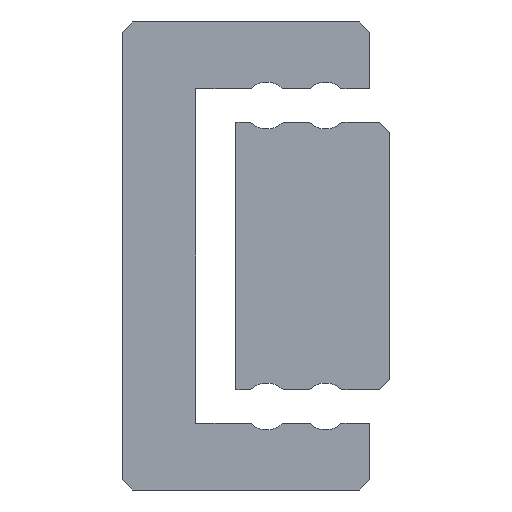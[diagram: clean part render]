
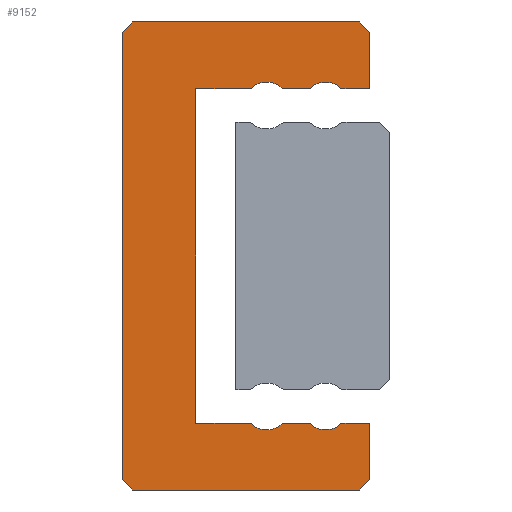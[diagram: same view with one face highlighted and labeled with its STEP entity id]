
A CAD part, left-side view. The second image highlights one B-rep face of the part: STEP entity #9152.
In plain terms, the highlighted planar face has unit normal (-1, 0, 0).
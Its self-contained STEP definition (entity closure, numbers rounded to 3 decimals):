
#292=CIRCLE('',#9932,0.35);
#294=CIRCLE('',#9936,0.35);
#298=CIRCLE('',#9944,0.35);
#300=CIRCLE('',#9948,0.35);
#1524=ORIENTED_EDGE('',*,*,#3844,.F.);
#1525=ORIENTED_EDGE('',*,*,#4288,.F.);
#1526=ORIENTED_EDGE('',*,*,#4285,.F.);
#1527=ORIENTED_EDGE('',*,*,#4280,.F.);
#1528=ORIENTED_EDGE('',*,*,#4277,.F.);
#1529=ORIENTED_EDGE('',*,*,#4274,.F.);
#1530=ORIENTED_EDGE('',*,*,#4271,.F.);
#1531=ORIENTED_EDGE('',*,*,#4268,.F.);
#1532=ORIENTED_EDGE('',*,*,#4265,.T.);
#1533=ORIENTED_EDGE('',*,*,#4262,.F.);
#1534=ORIENTED_EDGE('',*,*,#4259,.T.);
#1535=ORIENTED_EDGE('',*,*,#4256,.F.);
#1536=ORIENTED_EDGE('',*,*,#4253,.F.);
#1537=ORIENTED_EDGE('',*,*,#4248,.F.);
#1538=ORIENTED_EDGE('',*,*,#4245,.T.);
#1539=ORIENTED_EDGE('',*,*,#4242,.F.);
#1540=ORIENTED_EDGE('',*,*,#4239,.T.);
#1541=ORIENTED_EDGE('',*,*,#4236,.F.);
#1542=ORIENTED_EDGE('',*,*,#4233,.F.);
#1543=ORIENTED_EDGE('',*,*,#4230,.F.);
#3844=EDGE_CURVE('',#5256,#5257,#6212,.T.);
#4230=EDGE_CURVE('',#5257,#5642,#6350,.T.);
#4233=EDGE_CURVE('',#5642,#5644,#6353,.T.);
#4236=EDGE_CURVE('',#5644,#5646,#6356,.T.);
#4239=EDGE_CURVE('',#5648,#5646,#292,.T.);
#4242=EDGE_CURVE('',#5648,#5650,#6360,.T.);
#4245=EDGE_CURVE('',#5652,#5650,#294,.T.);
#4248=EDGE_CURVE('',#5652,#5654,#6364,.T.);
#4253=EDGE_CURVE('',#5654,#5658,#6367,.T.);
#4256=EDGE_CURVE('',#5658,#5660,#6370,.T.);
#4259=EDGE_CURVE('',#5662,#5660,#298,.T.);
#4262=EDGE_CURVE('',#5662,#5664,#6374,.T.);
#4265=EDGE_CURVE('',#5666,#5664,#300,.T.);
#4268=EDGE_CURVE('',#5666,#5668,#6378,.T.);
#4271=EDGE_CURVE('',#5668,#5670,#6381,.T.);
#4274=EDGE_CURVE('',#5670,#5672,#6384,.T.);
#4277=EDGE_CURVE('',#5672,#5674,#6387,.T.);
#4280=EDGE_CURVE('',#5674,#5676,#6390,.T.);
#4285=EDGE_CURVE('',#5676,#5680,#6393,.T.);
#4288=EDGE_CURVE('',#5680,#5256,#6396,.T.);
#5256=VERTEX_POINT('',#13929);
#5257=VERTEX_POINT('',#13930);
#5642=VERTEX_POINT('',#14702);
#5644=VERTEX_POINT('',#14708);
#5646=VERTEX_POINT('',#14714);
#5648=VERTEX_POINT('',#14720);
#5650=VERTEX_POINT('',#14726);
#5652=VERTEX_POINT('',#14732);
#5654=VERTEX_POINT('',#14738);
#5658=VERTEX_POINT('',#14748);
#5660=VERTEX_POINT('',#14754);
#5662=VERTEX_POINT('',#14760);
#5664=VERTEX_POINT('',#14766);
#5666=VERTEX_POINT('',#14772);
#5668=VERTEX_POINT('',#14778);
#5670=VERTEX_POINT('',#14784);
#5672=VERTEX_POINT('',#14790);
#5674=VERTEX_POINT('',#14796);
#5676=VERTEX_POINT('',#14802);
#5680=VERTEX_POINT('',#14812);
#6212=LINE('',#13928,#7028);
#6350=LINE('',#14701,#7166);
#6353=LINE('',#14707,#7169);
#6356=LINE('',#14713,#7172);
#6360=LINE('',#14725,#7176);
#6364=LINE('',#14737,#7180);
#6367=LINE('',#14747,#7183);
#6370=LINE('',#14753,#7186);
#6374=LINE('',#14765,#7190);
#6378=LINE('',#14777,#7194);
#6381=LINE('',#14783,#7197);
#6384=LINE('',#14789,#7200);
#6387=LINE('',#14795,#7203);
#6390=LINE('',#14801,#7206);
#6393=LINE('',#14811,#7209);
#6396=LINE('',#14817,#7212);
#7028=VECTOR('',#10869,1000.);
#7166=VECTOR('',#11505,1000.);
#7169=VECTOR('',#11510,1000.);
#7172=VECTOR('',#11515,1000.);
#7176=VECTOR('',#11527,1000.);
#7180=VECTOR('',#11539,1000.);
#7183=VECTOR('',#11548,1000.);
#7186=VECTOR('',#11553,1000.);
#7190=VECTOR('',#11565,1000.);
#7194=VECTOR('',#11577,1000.);
#7197=VECTOR('',#11582,1000.);
#7200=VECTOR('',#11587,1000.);
#7203=VECTOR('',#11592,1000.);
#7206=VECTOR('',#11597,1000.);
#7209=VECTOR('',#11606,1000.);
#7212=VECTOR('',#11611,1000.);
#7880=EDGE_LOOP('',(#1524,#1525,#1526,#1527,#1528,#1529,#1530,#1531,#1532,
#1533,#1534,#1535,#1536,#1537,#1538,#1539,#1540,#1541,#1542,#1543));
#8430=FACE_BOUND('',#7880,.T.);
#8939=PLANE('',#9960);
#9152=ADVANCED_FACE('',(#8430),#8939,.F.);
#9932=AXIS2_PLACEMENT_3D('',#14719,#11520,#11521);
#9936=AXIS2_PLACEMENT_3D('',#14731,#11532,#11533);
#9944=AXIS2_PLACEMENT_3D('',#14759,#11558,#11559);
#9948=AXIS2_PLACEMENT_3D('',#14771,#11570,#11571);
#9960=AXIS2_PLACEMENT_3D('',#14820,#11615,#11616);
#10869=DIRECTION('',(0.,-1.,0.));
#11505=DIRECTION('',(0.,-0.707,-0.707));
#11510=DIRECTION('',(0.,0.,-1.));
#11515=DIRECTION('',(0.,1.,0.));
#11520=DIRECTION('',(1.,0.,0.));
#11521=DIRECTION('',(0.,0.,-1.));
#11527=DIRECTION('',(0.,1.,0.));
#11532=DIRECTION('',(1.,0.,0.));
#11533=DIRECTION('',(0.,0.,-1.));
#11539=DIRECTION('',(0.,1.,0.));
#11548=DIRECTION('',(0.,0.,-1.));
#11553=DIRECTION('',(0.,-1.,0.));
#11558=DIRECTION('',(1.,0.,0.));
#11559=DIRECTION('',(0.,0.,-1.));
#11565=DIRECTION('',(0.,-1.,0.));
#11570=DIRECTION('',(1.,0.,0.));
#11571=DIRECTION('',(0.,0.,-1.));
#11577=DIRECTION('',(0.,-1.,0.));
#11582=DIRECTION('',(0.,0.,-1.));
#11587=DIRECTION('',(0.,0.707,-0.707));
#11592=DIRECTION('',(0.,1.,0.));
#11597=DIRECTION('',(0.,0.707,0.707));
#11606=DIRECTION('',(0.,0.,1.));
#11611=DIRECTION('',(0.,-0.707,0.707));
#11615=DIRECTION('',(1.,0.,0.));
#11616=DIRECTION('',(0.,0.,-1.));
#13928=CARTESIAN_POINT('',(-10.,3.55,3.5));
#13929=CARTESIAN_POINT('',(-10.,3.55,3.5));
#13930=CARTESIAN_POINT('',(-10.,0.15,3.5));
#14701=CARTESIAN_POINT('',(-10.,0.15,3.5));
#14702=CARTESIAN_POINT('',(-10.,0.,3.35));
#14707=CARTESIAN_POINT('',(-10.,0.,3.35));
#14708=CARTESIAN_POINT('',(-10.,0.,2.5));
#14713=CARTESIAN_POINT('',(-10.,0.,2.5));
#14714=CARTESIAN_POINT('',(-10.,0.415,2.5));
#14719=CARTESIAN_POINT('',(-10.,0.66,2.25));
#14720=CARTESIAN_POINT('',(-10.,0.905,2.5));
#14725=CARTESIAN_POINT('',(-10.,0.905,2.5));
#14726=CARTESIAN_POINT('',(-10.,1.295,2.5));
#14731=CARTESIAN_POINT('',(-10.,1.54,2.25));
#14732=CARTESIAN_POINT('',(-10.,1.785,2.5));
#14737=CARTESIAN_POINT('',(-10.,1.785,2.5));
#14738=CARTESIAN_POINT('',(-10.,2.6,2.5));
#14747=CARTESIAN_POINT('',(-10.,2.6,2.5));
#14748=CARTESIAN_POINT('',(-10.,2.6,-2.5));
#14753=CARTESIAN_POINT('',(-10.,2.6,-2.5));
#14754=CARTESIAN_POINT('',(-10.,1.785,-2.5));
#14759=CARTESIAN_POINT('',(-10.,1.54,-2.25));
#14760=CARTESIAN_POINT('',(-10.,1.295,-2.5));
#14765=CARTESIAN_POINT('',(-10.,1.295,-2.5));
#14766=CARTESIAN_POINT('',(-10.,0.905,-2.5));
#14771=CARTESIAN_POINT('',(-10.,0.66,-2.25));
#14772=CARTESIAN_POINT('',(-10.,0.415,-2.5));
#14777=CARTESIAN_POINT('',(-10.,0.415,-2.5));
#14778=CARTESIAN_POINT('',(-10.,0.,-2.5));
#14783=CARTESIAN_POINT('',(-10.,0.,-2.5));
#14784=CARTESIAN_POINT('',(-10.,0.,-3.35));
#14789=CARTESIAN_POINT('',(-10.,0.,-3.35));
#14790=CARTESIAN_POINT('',(-10.,0.15,-3.5));
#14795=CARTESIAN_POINT('',(-10.,0.15,-3.5));
#14796=CARTESIAN_POINT('',(-10.,3.55,-3.5));
#14801=CARTESIAN_POINT('',(-10.,3.55,-3.5));
#14802=CARTESIAN_POINT('',(-10.,3.7,-3.35));
#14811=CARTESIAN_POINT('',(-10.,3.7,-3.35));
#14812=CARTESIAN_POINT('',(-10.,3.7,3.35));
#14817=CARTESIAN_POINT('',(-10.,3.7,3.35));
#14820=CARTESIAN_POINT('',(-10.,0.66,2.25));
